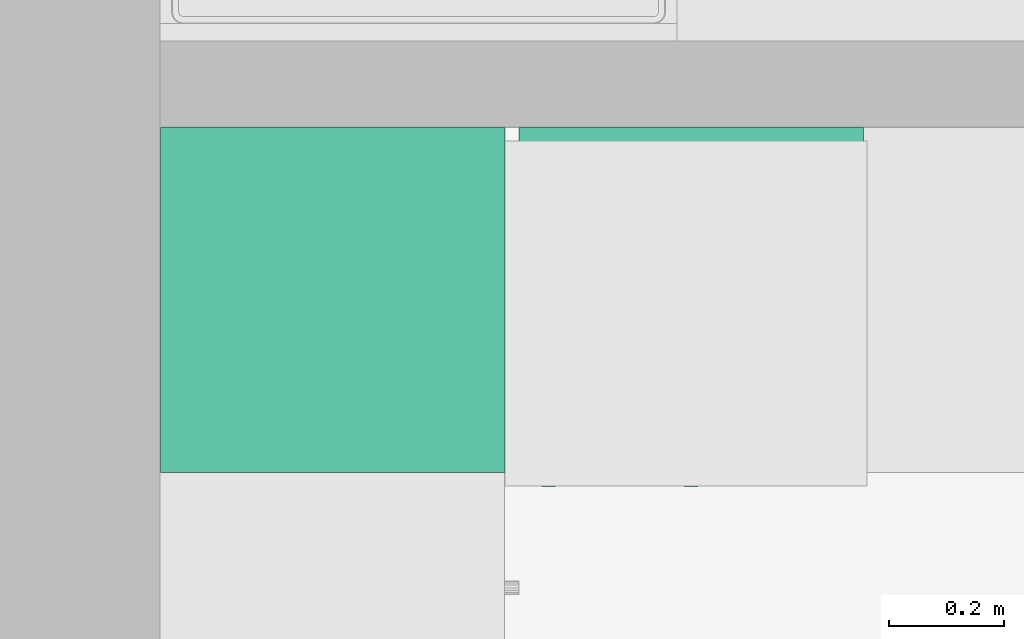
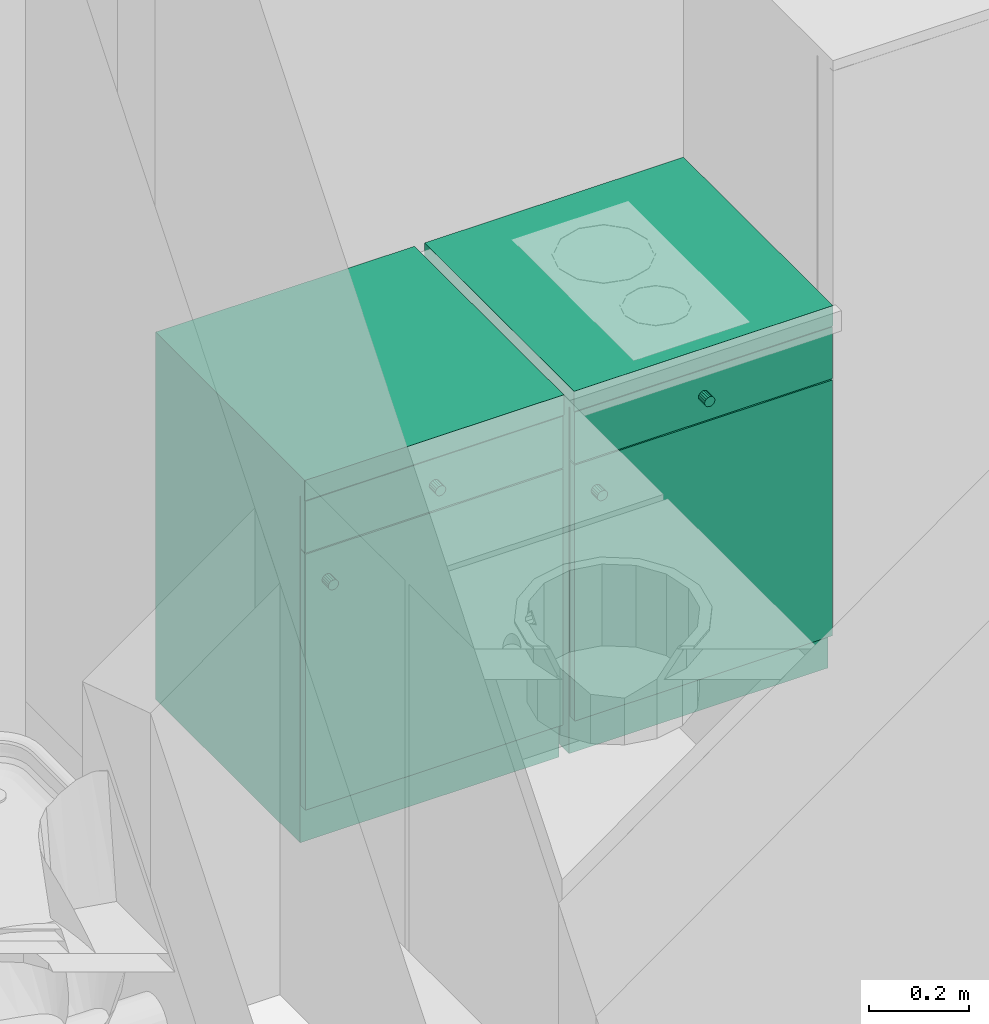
# One storey, part 53 of 172: 2 flow terminals.
"""IFC2X3 building model written with IfcOpenShell, lengths in millimetres."""

import ifcopenshell
import ifcopenshell.guid

model = None  # the IFC model being written
_history = None  # IfcOwnerHistory: only IFC2X3 demands one
_inside = {}  # id of a spatial element -> (the spatial element, [elements in it])
_under = {}  # id of a project, library or spatial element -> (it, [spatial elements below it])
_declared = {}  # id of a project -> (the project, [libraries it declares])
_typed = {}  # id of a type object -> (the type object, [elements of that type])
_made_of = {}  # id of a material, layer set ... -> (it, [elements and type objects made of it])


def new_model(schema):
    """Start an empty IFC model of exactly this schema.

    Asked for "IFC4X3", IfcOpenShell would pick the latest addendum, in which some entities
    have other attributes; the version numbers below select the first issue.
    IFC2X3 requires an IfcOwnerHistory on every rooted entity: one is made here for all.
    """
    global model, _history
    if schema == "IFC4X3":
        model = ifcopenshell.file(schema_version=(4, 3, 0, 0))
    else:
        model = ifcopenshell.file(schema=schema)
    _inside.clear()
    _under.clear()
    _declared.clear()
    _typed.clear()
    _made_of.clear()
    _history = None
    if model.schema == "IFC2X3":
        org = make("IfcOrganization", Name="unknown")
        user = make(
            "IfcPersonAndOrganization",
            ThePerson=make("IfcPerson", FamilyName="unknown"),
            TheOrganization=org,
        )
        app = make(
            "IfcApplication",
            ApplicationDeveloper=org,
            Version="unknown",
            ApplicationFullName="unknown",
            ApplicationIdentifier="unknown",
        )
        _history = make(
            "IfcOwnerHistory",
            OwningUser=user,
            OwningApplication=app,
            ChangeAction="ADDED",
            CreationDate=0,
        )
    return model


def make(cls, **values):
    """One entity of the class cls with the attributes given. An attribute that is None is left unset."""
    return model.create_entity(
        cls, **{name: value for name, value in values.items() if value is not None}
    )


def entity(cls, *values):
    """Any entity or typed value of the class cls, its attributes in the order of the schema. None: left unset."""
    e = model.create_entity(cls)
    for i, value in enumerate(values):
        if value is not None:
            e[i] = value
    return e


def rooted(cls, **values):
    """An entity with a GlobalId (a new one), such as an element, a storey or a relation."""
    return make(cls, GlobalId=ifcopenshell.guid.new(), OwnerHistory=_history, **values)


def si_unit(unit_type, name, prefix=None):
    """IfcSIUnit, for example si_unit("LENGTHUNIT", "METRE", prefix="MILLI")."""
    return make("IfcSIUnit", UnitType=unit_type, Prefix=prefix, Name=name)


def converted_unit(unit_type, name, factor, base, dimensions=None, offset=None):
    """IfcConversionBasedUnit, such as the inch: factor (a typed value) times the base unit."""
    return make(
        "IfcConversionBasedUnit"
        if offset is None
        else "IfcConversionBasedUnitWithOffset",
        ConversionOffset=offset,
        Dimensions=None
        if dimensions is None
        else entity("IfcDimensionalExponents", *dimensions),
        UnitType=unit_type,
        Name=name,
        ConversionFactor=make(
            "IfcMeasureWithUnit", ValueComponent=factor, UnitComponent=base
        ),
    )


def money_unit(currency):
    """IfcMonetaryUnit."""
    return make("IfcMonetaryUnit", Currency=currency)


def assignment(units):
    """IfcUnitAssignment: the units of a project."""
    return None if units is None else make("IfcUnitAssignment", Units=units)


def point(xyz):
    """IfcCartesianPoint."""
    return None if xyz is None else make("IfcCartesianPoint", Coordinates=xyz)


def direction(xyz):
    """IfcDirection."""
    return None if xyz is None else make("IfcDirection", DirectionRatios=xyz)


def frame(location, z_axis=None, x_axis=None):
    """IfcAxis2Placement3D, a coordinate frame: its origin and axes. An axis left out is left unset."""
    return make(
        "IfcAxis2Placement3D",
        Location=point(location),
        Axis=direction(z_axis),
        RefDirection=direction(x_axis),
    )


def origin_with_axes():
    """The frame at (0, 0, 0) with the z axis (0, 0, 1) and the x axis (1, 0, 0) written out."""
    return frame((0.0, 0.0, 0.0), z_axis=(0.0, 0.0, 1.0), x_axis=(1.0, 0.0, 0.0))


def place(relative_to, where):
    """IfcLocalPlacement: puts the frame where relative to a parent placement (None: the world)."""
    return make(
        "IfcLocalPlacement", PlacementRelTo=relative_to, RelativePlacement=where
    )


def context(
    kind, dimensions, precision=None, world=None, true_north=None, identifier=None
):
    """IfcGeometricRepresentationContext, for example the 3D "Model" context."""
    return make(
        "IfcGeometricRepresentationContext",
        ContextIdentifier=identifier,
        ContextType=kind,
        CoordinateSpaceDimension=dimensions,
        Precision=precision,
        WorldCoordinateSystem=world,
        TrueNorth=true_north,
    )


def subcontext(parent, identifier, kind, view, scale=None):
    """IfcGeometricRepresentationSubContext, for example "Body" below "Model"."""
    return make(
        "IfcGeometricRepresentationSubContext",
        ContextIdentifier=identifier,
        ContextType=kind,
        ParentContext=parent,
        TargetScale=scale,
        TargetView=view,
    )


def project(units=None, contexts=None):
    """IfcProject with its units and contexts."""
    return rooted(
        "IfcProject",
        Name="project",
        RepresentationContexts=contexts,
        UnitsInContext=assignment(units),
    )


def spatial(cls, under=None, at=None, **own):
    """A site, building, storey or space (cls), placed at a placement, below another one or the project."""
    s = rooted(cls, ObjectPlacement=at, **own)
    if under is not None:
        _under.setdefault(under.id(), (under, []))[1].append(s)
    return s


def faces_of(points, faces, orient=None, outer=None):
    """IfcFace entities. A face is a list of loops; a loop is a list of indices into points, from 0.

    orient and outer hold one flag for each loop. By default every Orientation is true, the
    first loop of a face is its IfcFaceOuterBound and the others are IfcFaceBound.
    """
    made = []
    for i, loops in enumerate(faces):
        bounds = []
        for j, loop in enumerate(loops):
            is_outer = j == 0 if outer is None else outer[i][j]
            bounds.append(
                make(
                    "IfcFaceOuterBound" if is_outer else "IfcFaceBound",
                    Bound=make("IfcPolyLoop", Polygon=[points[k] for k in loop]),
                    Orientation=True if orient is None else orient[i][j],
                )
            )
        made.append(make("IfcFace", Bounds=bounds))
    return made


def faceted_brep(points, faces, orient=None, outer=None, voids=None):
    """IfcFacetedBrep: a solid bounded by flat faces; with voids (closed shells), ...WithVoids."""
    shared = [point(p) for p in points]
    hull = make("IfcClosedShell", CfsFaces=faces_of(shared, faces, orient, outer))
    if voids is None:
        return make("IfcFacetedBrep", Outer=hull)
    return make(
        "IfcFacetedBrepWithVoids",
        Outer=hull,
        Voids=[
            make(cls, CfsFaces=faces_of(shared, fs, o, b)) for cls, fs, o, b in voids
        ],
    )


def shape(context_of_items, identifier, shape_type, items):
    """IfcShapeRepresentation: the items that make up one representation, for example the "Body"."""
    return make(
        "IfcShapeRepresentation",
        ContextOfItems=context_of_items,
        RepresentationIdentifier=identifier,
        RepresentationType=shape_type,
        Items=items,
    )


def source(mapping_origin, context_of_items, identifier, shape_type, items):
    """IfcRepresentationMap: a shape defined once, which mapped items show again and again."""
    return make(
        "IfcRepresentationMap",
        MappingOrigin=mapping_origin,
        MappedRepresentation=shape(context_of_items, identifier, shape_type, items),
    )


def transform(
    local_origin,
    x_axis=None,
    y_axis=None,
    z_axis=None,
    scale=None,
    scale2=None,
    scale3=None,
    uniform=True,
):
    """IfcCartesianTransformationOperator3D, or its non-uniform kind. x_axis, y_axis, z_axis: its Axis1, 2, 3."""
    if uniform:
        return make(
            "IfcCartesianTransformationOperator3D",
            Axis1=direction(x_axis),
            Axis2=direction(y_axis),
            LocalOrigin=point(local_origin),
            Scale=scale,
            Axis3=direction(z_axis),
        )
    return make(
        "IfcCartesianTransformationOperator3DnonUniform",
        Axis1=direction(x_axis),
        Axis2=direction(y_axis),
        LocalOrigin=point(local_origin),
        Scale=scale,
        Axis3=direction(z_axis),
        Scale2=scale2,
        Scale3=scale3,
    )


def mapped(mapping_source, mapping_target):
    """IfcMappedItem: shows the shape of a source again, moved by a transform."""
    return make(
        "IfcMappedItem", MappingSource=mapping_source, MappingTarget=mapping_target
    )


def material(Name=None, Category=None):
    """IfcMaterial."""
    return make("IfcMaterial", Name=Name, Category=Category)


def material_list(materials):
    """IfcMaterialList."""
    return make("IfcMaterialList", Materials=materials)


def made_of(thing, what):
    """Note that an element or type object is made of a material, layer set ...; save() writes the relation."""
    if what is not None:
        _made_of.setdefault(what.id(), (what, []))[1].append(thing)
    return thing


def type_object(cls, material=None, **own):
    """A type object (cls), such as IfcWallType, which elements share."""
    return made_of(rooted(cls, **own), material)


def element(
    cls,
    number,
    at=None,
    inside=None,
    cuts=None,
    type_object=None,
    material=None,
    context=None,
    identifier="Body",
    shape_type=None,
    held_by="IfcProductDefinitionShape",
    body=None,
    shapes=None,
    **own,
):
    """One element of the class cls, such as IfcWall. Its Tag is "e" and its number.

    at: its placement. inside: the storey or other place that contains it. cuts: it is an
    opening in that element (IfcRelVoidsElement). A single representation is given by context,
    identifier, shape_type and body (its items); several are given by shapes. held_by: the class
    of the entity that holds the representations. save() writes the other relations.
    """
    e = rooted(cls, Tag="e%d" % number, ObjectPlacement=at, **own)
    if body is not None:
        shapes = [shape(context, identifier, shape_type, body)]
    if shapes is not None:
        e.Representation = make(held_by, Representations=shapes)
    if inside is not None:
        _inside.setdefault(inside.id(), (inside, []))[1].append(e)
    if cuts is not None:
        rooted(
            "IfcRelVoidsElement", RelatingBuildingElement=cuts, RelatedOpeningElement=e
        )
    if type_object is not None:
        _typed.setdefault(type_object.id(), (type_object, []))[1].append(e)
    return made_of(e, material)


def aggregate(whole, parts):
    """IfcRelAggregates: a whole, such as a stair, and the parts it consists of."""
    return rooted("IfcRelAggregates", RelatingObject=whole, RelatedObjects=parts)


def save(model, path):
    """Write the relations noted so far, then the file.

    IfcRelAggregates (storeys below a building ...), IfcRelContainedInSpatialStructure (elements
    in a storey), IfcRelDefinesByType, IfcRelAssociatesMaterial and IfcRelDeclares: one each for
    every whole, place, type object, material and project.
    """
    for whole, parts in _under.values():
        aggregate(whole, parts)
    for where, things in _inside.values():
        rooted(
            "IfcRelContainedInSpatialStructure",
            RelatedElements=things,
            RelatingStructure=where,
        )
    for kind, things in _typed.values():
        rooted("IfcRelDefinesByType", RelatedObjects=things, RelatingType=kind)
    for what, things in _made_of.values():
        rooted("IfcRelAssociatesMaterial", RelatedObjects=things, RelatingMaterial=what)
    for by, libraries in _declared.values():
        rooted("IfcRelDeclares", RelatingContext=by, RelatedDefinitions=libraries)
    model.write(path)


model = new_model("IFC2X3")

# Units and contexts
model_context = context("Model", 3, precision=1e-05, world=origin_with_axes(), true_north=direction((0.0, 1.0)))
body_context = subcontext(model_context, "Body", "Model", "MODEL_VIEW")
ifc_project = project(units=[si_unit("LENGTHUNIT", "METRE", prefix="MILLI"), si_unit("AREAUNIT", "SQUARE_METRE"), si_unit("VOLUMEUNIT", "CUBIC_METRE"), converted_unit("PLANEANGLEUNIT", "DEGREE", entity("IfcPlaneAngleMeasure", 0.0174532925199), si_unit("PLANEANGLEUNIT", "RADIAN"), dimensions=[0, 0, 0, 0, 0, 0, 0]), si_unit("SOLIDANGLEUNIT", "STERADIAN"), money_unit("USD"), converted_unit("TIMEUNIT", "Year", entity("IfcTimeMeasure", 31556926.0), si_unit("TIMEUNIT", "SECOND"), dimensions=[0, 0, 0, 0, 0, 0, 0]), si_unit("MASSUNIT", "GRAM"), si_unit("THERMODYNAMICTEMPERATUREUNIT", "DEGREE_CELSIUS"), si_unit("LUMINOUSINTENSITYUNIT", "LUMEN")], contexts=[model_context])

# Site, building, storey
site_placement = place(None, origin_with_axes())
site = spatial("IfcSite", under=ifc_project, at=site_placement, Name="Site", CompositionType="ELEMENT")
building_placement = place(site_placement, origin_with_axes())
building = spatial("IfcBuilding", under=site, at=building_placement, Name="Building", CompositionType="ELEMENT")
storey_placement = place(building_placement, frame((0.0, 0.0, 3200.0), z_axis=(0.0, 0.0, 1.0), x_axis=(1.0, 0.0, 0.0)))
storey = spatial("IfcBuildingStorey", under=building, at=storey_placement, Name="3KORRUS", CompositionType="ELEMENT", Elevation=3200.0)

# Flow terminals
ifc_material = material(Name="Background")
ifc_material_list = material_list([ifc_material])
sanitary_terminal_type = type_object("IfcSanitaryTerminalType", Name="Cabinet Base Single Door 19", PredefinedType="SINK")
shared_shape = source(origin_with_axes(), body_context, "Body", "Brep", [
    faceted_brep([(-20.0, 20.0, 710.0), (-20.0, 20.0, 730.0), (-580.0, 20.0, 730.0), (-580.0, 20.0, 710.0), (-20.0, 580.0, 710.0), (-20.0, 580.0, 730.0), (-580.0, 580.0, 730.0), (-580.0, 580.0, 710.0)], [[[0, 1, 2, 3]], [[4, 5, 1, 0]], [[1, 5, 6, 2]], [[3, 2, 6, 7]], [[0, 3, 7, 4]], [[7, 6, 5, 4]]]),
    faceted_brep([(0.0, 20.0, 0.0), (0.0, 20.0, 90.0), (-600.0, 20.0, 90.0), (-600.0, 20.0, 0.0), (0.0, 600.0, 0.0), (0.0, 600.0, 90.0), (-600.0, 600.0, 90.0), (-600.0, 600.0, 0.0)], [[[0, 1, 2, 3]], [[4, 5, 1, 0]], [[1, 5, 6, 2]], [[3, 2, 6, 7]], [[0, 3, 7, 4]], [[7, 6, 5, 4]]]),
    faceted_brep([(0.0, 20.0, 830.0), (0.0, 20.0, 850.0), (-20.0, 20.0, 850.0), (-20.0, 20.0, 830.0), (0.0, 600.0, 830.0), (0.0, 600.0, 850.0), (-20.0, 600.0, 850.0), (-580.0, 600.0, 850.0), (-600.0, 600.0, 850.0), (-600.0, 20.0, 850.0), (-580.0, 20.0, 850.0), (-580.0, 20.0, 830.0), (-600.0, 20.0, 830.0), (-600.0, 600.0, 830.0), (-580.0, 600.0, 830.0), (-20.0, 600.0, 830.0)], [[[0, 1, 2, 3]], [[4, 5, 1, 0]], [[1, 5, 6, 7, 8, 9, 10, 2]], [[3, 2, 10, 11]], [[0, 3, 11, 12, 13, 14, 15, 4]], [[15, 6, 5, 4]], [[14, 7, 6, 15]], [[13, 8, 7, 14]], [[12, 9, 8, 13]], [[11, 10, 9, 12]]]),
    faceted_brep([(0.0, 20.0, 90.0), (0.0, 20.0, 110.0), (-20.0, 20.0, 110.0), (-20.0, 20.0, 90.0), (0.0, 600.0, 90.0), (0.0, 600.0, 110.0), (-20.0, 600.0, 110.0), (-580.0, 600.0, 110.0), (-600.0, 600.0, 110.0), (-600.0, 20.0, 110.0), (-580.0, 20.0, 110.0), (-580.0, 20.0, 90.0), (-600.0, 20.0, 90.0), (-600.0, 600.0, 90.0), (-580.0, 600.0, 90.0), (-20.0, 600.0, 90.0)], [[[0, 1, 2, 3]], [[4, 5, 1, 0]], [[1, 5, 6, 7, 8, 9, 10, 2]], [[3, 2, 10, 11]], [[0, 3, 11, 12, 13, 14, 15, 4]], [[15, 6, 5, 4]], [[14, 7, 6, 15]], [[13, 8, 7, 14]], [[12, 9, 8, 13]], [[11, 10, 9, 12]]]),
    faceted_brep([(0.0, 20.0, 110.0), (0.0, 20.0, 830.0), (-20.0, 20.0, 830.0), (-20.0, 20.0, 110.0), (0.0, 600.0, 110.0), (0.0, 600.0, 830.0), (-600.0, 600.0, 830.0), (-600.0, 20.0, 830.0), (-580.0, 20.0, 830.0), (-580.0, 580.0, 830.0), (-20.0, 580.0, 830.0), (-20.0, 580.0, 110.0), (-580.0, 580.0, 110.0), (-580.0, 20.0, 110.0), (-600.0, 20.0, 110.0), (-600.0, 600.0, 110.0)], [[[0, 1, 2, 3]], [[4, 5, 1, 0]], [[1, 5, 6, 7, 8, 9, 10, 2]], [[3, 2, 10, 11]], [[0, 3, 11, 12, 13, 14, 15, 4]], [[15, 6, 5, 4]], [[14, 7, 6, 15]], [[13, 8, 7, 14]], [[12, 9, 8, 13]], [[11, 10, 9, 12]]]),
    faceted_brep([(-580.0, 20.0, 385.0), (-580.0, 20.0, 405.0), (-580.0, 580.0, 405.0), (-580.0, 580.0, 385.0), (-20.0, 20.0, 385.0), (-20.0, 20.0, 405.0), (-20.0, 580.0, 405.0), (-20.0, 580.0, 385.0)], [[[0, 1, 2, 3]], [[4, 5, 1, 0]], [[1, 5, 6, 2]], [[3, 2, 6, 7]], [[0, 3, 7, 4]], [[7, 6, 5, 4]]]),
    faceted_brep([(0.0, 0.0, 850.0), (0.0, 0.0, 900.0), (-600.0, 0.0, 900.0), (-600.0, 0.0, 850.0), (0.0, 600.0, 850.0), (0.0, 600.0, 900.0), (-600.0, 600.0, 900.0), (-600.0, 600.0, 850.0)], [[[0, 1, 2, 3]], [[4, 5, 1, 0]], [[1, 5, 6, 2]], [[3, 2, 6, 7]], [[0, 3, 7, 4]], [[7, 6, 5, 4]]]),
    faceted_brep([(-1.5, 20.0, 721.5), (-1.5, 0.0, 721.5), (-598.5, 0.0, 721.5), (-598.5, 20.0, 721.5), (-1.5, 20.0, 848.5), (-1.5, 0.0, 848.5), (-598.5, 0.0, 848.5), (-598.5, 20.0, 848.5)], [[[0, 1, 2, 3]], [[4, 5, 1, 0]], [[1, 5, 6, 2]], [[3, 2, 6, 7]], [[0, 3, 7, 4]], [[7, 6, 5, 4]]]),
    faceted_brep([(-295.408, 0.0, 773.913), (-300.0, 0.0, 773.0), (-304.592, 0.0, 773.913), (-308.485, 0.0, 776.515), (-311.087, 0.0, 780.408), (-312.0, 0.0, 785.0), (-311.087, 0.0, 789.592), (-308.485, 0.0, 793.485), (-304.592, 0.0, 796.087), (-300.0, 0.0, 797.0), (-295.408, 0.0, 796.087), (-291.515, 0.0, 793.485), (-288.913, 0.0, 789.592), (-288.0, 0.0, 785.0), (-288.913, 0.0, 780.408), (-291.515, 0.0, 776.515), (-295.408, -25.0, 773.913), (-300.0, -25.0, 773.0), (-304.592, -25.0, 773.913), (-308.485, -25.0, 776.515), (-311.087, -25.0, 780.408), (-312.0, -25.0, 785.0), (-311.087, -25.0, 789.592), (-308.485, -25.0, 793.485), (-304.592, -25.0, 796.087), (-300.0, -25.0, 797.0), (-295.408, -25.0, 796.087), (-291.515, -25.0, 793.485), (-288.913, -25.0, 789.592), (-288.0, -25.0, 785.0), (-288.913, -25.0, 780.408), (-291.515, -25.0, 776.515)], [[[0, 1, 2, 3, 4, 5, 6, 7, 8, 9, 10, 11, 12, 13, 14, 15]], [[0, 16, 17, 1]], [[1, 17, 18, 2]], [[2, 18, 19, 3]], [[3, 19, 20, 4]], [[4, 20, 21, 5]], [[5, 21, 22, 6]], [[6, 22, 23, 7]], [[7, 23, 24, 8]], [[8, 24, 25, 9]], [[9, 25, 26, 10]], [[10, 26, 27, 11]], [[11, 27, 28, 12]], [[12, 28, 29, 13]], [[13, 29, 30, 14]], [[14, 30, 31, 15]], [[15, 31, 16, 0]], [[16, 31, 30, 29, 28, 27, 26, 25, 24, 23, 22, 21, 20, 19, 18, 17]]]),
    faceted_brep([(-1.5, 20.0, 91.5), (-1.5, 0.0, 91.5), (-598.5, 0.0, 91.5), (-598.5, 20.0, 91.5), (-1.5, 20.0, 718.5), (-1.5, 0.0, 718.5), (-598.5, 0.0, 718.5), (-598.5, 20.0, 718.5)], [[[0, 1, 2, 3]], [[4, 5, 1, 0]], [[1, 5, 6, 2]], [[3, 2, 6, 7]], [[0, 3, 7, 4]], [[7, 6, 5, 4]]]),
    faceted_brep([(-559.587, 0.0, 636.908), (-560.5, 0.0, 641.5), (-559.587, 0.0, 646.092), (-556.985, 0.0, 649.985), (-553.092, 0.0, 652.587), (-548.5, 0.0, 653.5), (-543.908, 0.0, 652.587), (-540.015, 0.0, 649.985), (-537.413, 0.0, 646.092), (-536.5, 0.0, 641.5), (-537.413, 0.0, 636.908), (-540.015, 0.0, 633.015), (-543.908, 0.0, 630.413), (-548.5, 0.0, 629.5), (-553.092, 0.0, 630.413), (-556.985, 0.0, 633.015), (-559.587, -25.0, 636.908), (-560.5, -25.0, 641.5), (-559.587, -25.0, 646.092), (-556.985, -25.0, 649.985), (-553.092, -25.0, 652.587), (-548.5, -25.0, 653.5), (-543.908, -25.0, 652.587), (-540.015, -25.0, 649.985), (-537.413, -25.0, 646.092), (-536.5, -25.0, 641.5), (-537.413, -25.0, 636.908), (-540.015, -25.0, 633.015), (-543.908, -25.0, 630.413), (-548.5, -25.0, 629.5), (-553.092, -25.0, 630.413), (-556.985, -25.0, 633.015)], [[[0, 1, 2, 3, 4, 5, 6, 7, 8, 9, 10, 11, 12, 13, 14, 15]], [[0, 16, 17, 1]], [[1, 17, 18, 2]], [[2, 18, 19, 3]], [[3, 19, 20, 4]], [[4, 20, 21, 5]], [[5, 21, 22, 6]], [[6, 22, 23, 7]], [[7, 23, 24, 8]], [[8, 24, 25, 9]], [[9, 25, 26, 10]], [[10, 26, 27, 11]], [[11, 27, 28, 12]], [[12, 28, 29, 13]], [[13, 29, 30, 14]], [[14, 30, 31, 15]], [[15, 31, 16, 0]], [[16, 31, 30, 29, 28, 27, 26, 25, 24, 23, 22, 21, 20, 19, 18, 17]]]),
])
for number, where, z_axis, x_axis, name in (
    (1, (-35389.4629732, -9967.37850445, 0.0), (0.0, 0.0, 1.0), (1.0, 0.0, 0.0), "FU - 007"),
    (2, (-34765.7435229, -9967.37850445, 0.0), (0.0, 0.0, 1.0), (1.0, 0.0, 0.0), "FU - 007"),
):
    element("IfcFlowTerminal", number, at=place(storey_placement, frame(where, z_axis=z_axis, x_axis=x_axis)), inside=storey, type_object=sanitary_terminal_type, material=ifc_material_list, Name=name, context=body_context, shape_type="MappedRepresentation", body=[
        mapped(shared_shape, transform((0.0, 0.0, 0.0))),
    ])

save(model, "model.ifc")
